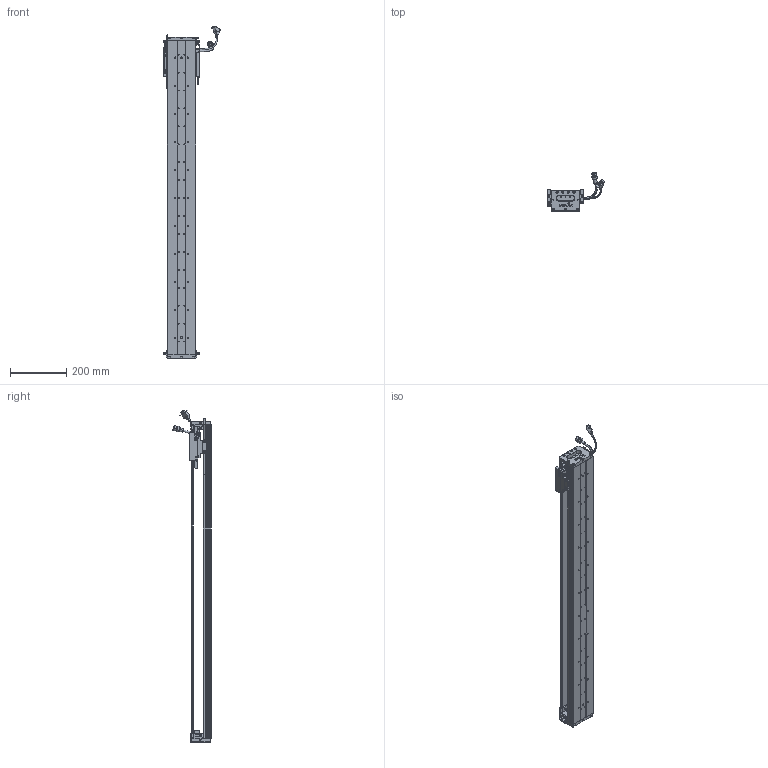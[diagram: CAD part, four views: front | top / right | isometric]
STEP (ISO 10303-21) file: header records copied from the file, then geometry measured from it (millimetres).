
FILE_DESCRIPTION (( 'STEP AP203' ), '1' );
FILE_NAME ('Z1-RY100D-1-L500-B-K.SLDASM_0950.step', '2021-05-17T01:40:58', ( '盈信电脑' ), ( '东莞市道滘镇水果街19号' ), 'SwSTEP 2.0', 'SolidWorks 2016', '' );
FILE_SCHEMA (( 'CONFIG_CONTROL_DESIGN' ));
Length unit declared in the file: millimetre
Products named in the file (36): 080黍杅芛假蚾釱21遴; 140蚥薯蝶輸; Z-RY100D詩湍狟揤裔; HOLDER0; SCREW-M1.7-1; SCALE-Part-1; 140雄赽晤鎢ん堤盄; Z-RY100D覜茼んえ; COVER; Z1-RY100D-1-L500-B-K.SLDASM_0950; Z1-RY100铝滑块（21款）; SCREW-M1.6-2; Z1-RY100D-500-倰第菁釱_0950; PBU_SHEET; 覜茼ん672; Z-100詩湍傷裔啣; Z1-RY100-L500詩湍90mm遵_0950; LABEL-Part-1; SEAL-Part-1; SCREW-M1.6-1; SEAL; SCREW-M1.7; SHIELDPLATE; Z-RY100D詩湍奻揤裔; COVER-Part-1; 100-Z-臏賑輸盄裔(21遴); SCALE; SCREW-M1.6-3; HARNESS-Part-1; PSLH080_PSLF2; HARNESS; SCREW-M1.6; SCALE-Part-2; 榋妏寠巭燃_暯_M2_2; HARNESS-Part-2; LABEL
Assembly tree (44 placements, depth 4):
  Z1-RY100D-1-L500-B-K.SLDASM_0950
    Z1-RY100D-500-倰第菁釱_0950
    Z1-RY100铝滑块（21款）
    PSLH080_PSLF2
      SCALE
        SCALE-Part-1
        SCALE-Part-2
      HARNESS
        HARNESS-Part-1
        HARNESS-Part-2
      LABEL
        LABEL-Part-1
      COVER
        COVER-Part-1
      SEAL
        SEAL-Part-1
      榋妏寠巭燃_暯_M2_2
      SHIELDPLATE
      SCREW-M1.7
      SCREW-M1.7-1
      PBU_SHEET
      SCREW-M1.6
      SCREW-M1.6-1
      SCREW-M1.6-2
      SCREW-M1.6-3
      HOLDER0
    080黍杅芛假蚾釱21遴
    Z-100詩湍傷裔啣  x2
    140蚥薯蝶輸  x2
    覜茼ん672  x4
    Z-RY100D覜茼んえ  x3
    100-Z-臏賑輸盄裔(21遴)
    140雄赽晤鎢ん堤盄
    Z1-RY100-L500詩湍90mm遵_0950
    Z-RY100D詩湍狟揤裔  x2
    Z-RY100D詩湍奻揤裔  x2
Bounding box: 205.84 x 136.11 x 1185.43 mm (x, y, z)
Volume: 2311052.8 mm3; surface area: 912795.3 mm2
Topology: 39 solids, 39 shells, 2606 faces, 6871 edges, 4364 vertices
Faces by surface type: plane 1176, cylinder 1098, cone 210, torus 69, bspline 53
Entity records: 68483 total; most frequent: CARTESIAN_POINT 14509, DIRECTION 10777, ORIENTED_EDGE 10174, EDGE_CURVE 5087, AXIS2_PLACEMENT_3D 3944, VERTEX_POINT 3272, VECTOR 2889, LINE 2889
